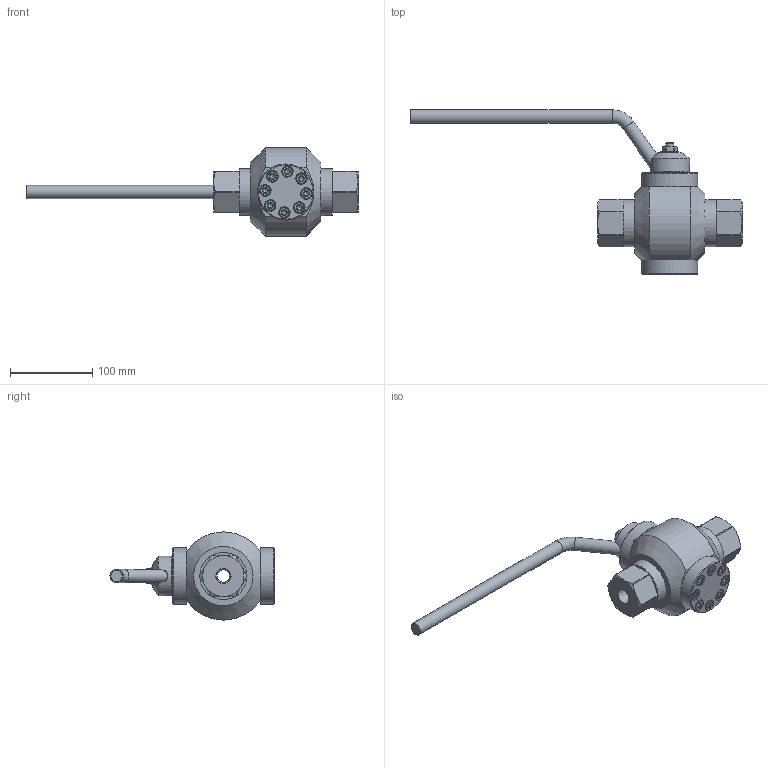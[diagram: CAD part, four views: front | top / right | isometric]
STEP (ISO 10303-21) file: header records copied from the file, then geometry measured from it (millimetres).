
FILE_DESCRIPTION(('STEP AP203'), '1');
FILE_NAME('ZARDP 015.320.10.P.stp', '2013-12-05T09:19:50', ('Øèøêî'), ('ÎÎÎ ÈÊ Ýíåðïðåä-ßðäîñ'), 'ASCON STEP Converter 1.3', 'Kompas 3D', '');
FILE_SCHEMA(('CONFIG_CONTROL_DESIGN','SUPPORT_RESOURCE_SCHEMA'));
Length unit declared in the file: millimetre
Products named in the file (1): 96
Bounding box: 402.51 x 199 x 107 mm (x, y, z)
Volume: 901677.7 mm3; surface area: 138727.3 mm2
Topology: 1 solids, 12 shells, 698 faces, 1604 edges, 986 vertices
Faces by surface type: plane 418, cylinder 174, cone 98, torus 8
Full cylindrical faces by diameter (mm): 6 x18, 8 x16, 8.026 x8, 9 x16, 10 x2, 13 x16, 14 x17, 15 x2, 16 x3, 16.2 x1, 18 x1, 20 x2, 21.8 x1, 22 x2, 25 x1, 26 x1, 26.5 x1, 33 x2, 35 x2, 48 x1, 50 x1, 57 x2, 68 x2
Entity records: 23538 total; most frequent: CARTESIAN_POINT 7733, DIRECTION 3365, ORIENTED_EDGE 3160, EDGE_CURVE 1580, AXIS2_PLACEMENT_3D 1314, VERTEX_POINT 986, EDGE_LOOP 822, LINE 737
